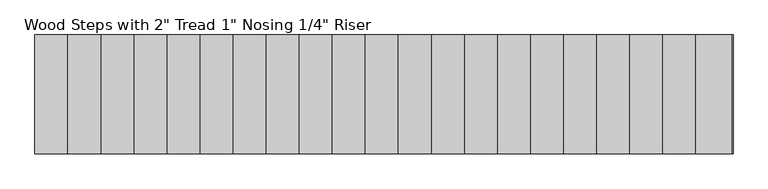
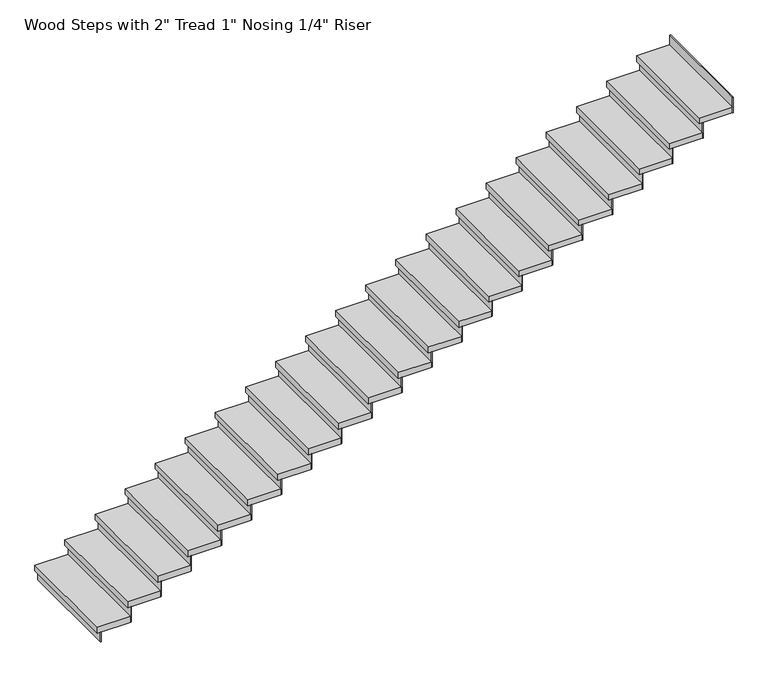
"""IFC4 building model written with IfcOpenShell, lengths in millimetres: stair flight geometry."""

import ifcopenshell
import ifcopenshell.guid

model = None  # the IFC model being written
_history = None  # IfcOwnerHistory: only IFC2X3 demands one
_inside = {}  # id of a spatial element -> (the spatial element, [elements in it])
_under = {}  # id of a project, library or spatial element -> (it, [spatial elements below it])
_declared = {}  # id of a project -> (the project, [libraries it declares])
_typed = {}  # id of a type object -> (the type object, [elements of that type])
_made_of = {}  # id of a material, layer set ... -> (it, [elements and type objects made of it])


def new_model(schema):
    """Start an empty IFC model of exactly this schema.

    Asked for "IFC4X3", IfcOpenShell would pick the latest addendum, in which some entities
    have other attributes; the version numbers below select the first issue.
    IFC2X3 requires an IfcOwnerHistory on every rooted entity: one is made here for all.
    """
    global model, _history
    if schema == "IFC4X3":
        model = ifcopenshell.file(schema_version=(4, 3, 0, 0))
    else:
        model = ifcopenshell.file(schema=schema)
    _inside.clear()
    _under.clear()
    _declared.clear()
    _typed.clear()
    _made_of.clear()
    _history = None
    if model.schema == "IFC2X3":
        org = make("IfcOrganization", Name="unknown")
        user = make(
            "IfcPersonAndOrganization",
            ThePerson=make("IfcPerson", FamilyName="unknown"),
            TheOrganization=org,
        )
        app = make(
            "IfcApplication",
            ApplicationDeveloper=org,
            Version="unknown",
            ApplicationFullName="unknown",
            ApplicationIdentifier="unknown",
        )
        _history = make(
            "IfcOwnerHistory",
            OwningUser=user,
            OwningApplication=app,
            ChangeAction="ADDED",
            CreationDate=0,
        )
    return model


def make(cls, **values):
    """One entity of the class cls with the attributes given. An attribute that is None is left unset."""
    return model.create_entity(
        cls, **{name: value for name, value in values.items() if value is not None}
    )


def rooted(cls, **values):
    """An entity with a GlobalId (a new one), such as an element, a storey or a relation."""
    return make(cls, GlobalId=ifcopenshell.guid.new(), OwnerHistory=_history, **values)


def si_unit(unit_type, name, prefix=None):
    """IfcSIUnit, for example si_unit("LENGTHUNIT", "METRE", prefix="MILLI")."""
    return make("IfcSIUnit", UnitType=unit_type, Prefix=prefix, Name=name)


def assignment(units):
    """IfcUnitAssignment: the units of a project."""
    return None if units is None else make("IfcUnitAssignment", Units=units)


def point(xyz):
    """IfcCartesianPoint."""
    return None if xyz is None else make("IfcCartesianPoint", Coordinates=xyz)


def direction(xyz):
    """IfcDirection."""
    return None if xyz is None else make("IfcDirection", DirectionRatios=xyz)


def frame(location, z_axis=None, x_axis=None):
    """IfcAxis2Placement3D, a coordinate frame: its origin and axes. An axis left out is left unset."""
    return make(
        "IfcAxis2Placement3D",
        Location=point(location),
        Axis=direction(z_axis),
        RefDirection=direction(x_axis),
    )


def origin():
    """The frame at (0, 0, 0) with its axes left unset."""
    return frame((0.0, 0.0, 0.0))


def origin_with_axes():
    """The frame at (0, 0, 0) with the z axis (0, 0, 1) and the x axis (1, 0, 0) written out."""
    return frame((0.0, 0.0, 0.0), z_axis=(0.0, 0.0, 1.0), x_axis=(1.0, 0.0, 0.0))


def place(relative_to, where):
    """IfcLocalPlacement: puts the frame where relative to a parent placement (None: the world)."""
    return make(
        "IfcLocalPlacement", PlacementRelTo=relative_to, RelativePlacement=where
    )


def context(
    kind, dimensions, precision=None, world=None, true_north=None, identifier=None
):
    """IfcGeometricRepresentationContext, for example the 3D "Model" context."""
    return make(
        "IfcGeometricRepresentationContext",
        ContextIdentifier=identifier,
        ContextType=kind,
        CoordinateSpaceDimension=dimensions,
        Precision=precision,
        WorldCoordinateSystem=world,
        TrueNorth=true_north,
    )


def project(units=None, contexts=None):
    """IfcProject with its units and contexts."""
    return rooted(
        "IfcProject",
        Name="project",
        RepresentationContexts=contexts,
        UnitsInContext=assignment(units),
    )


def spatial(cls, under=None, at=None, **own):
    """A site, building, storey or space (cls), placed at a placement, below another one or the project."""
    s = rooted(cls, ObjectPlacement=at, **own)
    if under is not None:
        _under.setdefault(under.id(), (under, []))[1].append(s)
    return s


def polyline(points):
    """IfcPolyline through the points."""
    return make("IfcPolyline", Points=[point(p) for p in points])


def outline(outer, holes=None, kind="AREA"):
    """IfcArbitraryClosedProfileDef: a profile drawn as a closed curve; with holes, ...WithVoids."""
    if holes is None:
        return make("IfcArbitraryClosedProfileDef", ProfileType=kind, OuterCurve=outer)
    return make(
        "IfcArbitraryProfileDefWithVoids",
        ProfileType=kind,
        OuterCurve=outer,
        InnerCurves=holes,
    )


def extrude(swept, where, along, depth):
    """IfcExtrudedAreaSolid: the profile swept, set in the frame where, extruded along a direction by depth."""
    return make(
        "IfcExtrudedAreaSolid",
        SweptArea=swept,
        Position=where,
        ExtrudedDirection=direction(along),
        Depth=depth,
    )


def shape(context_of_items, identifier, shape_type, items):
    """IfcShapeRepresentation: the items that make up one representation, for example the "Body"."""
    return make(
        "IfcShapeRepresentation",
        ContextOfItems=context_of_items,
        RepresentationIdentifier=identifier,
        RepresentationType=shape_type,
        Items=items,
    )


def source(mapping_origin, context_of_items, identifier, shape_type, items):
    """IfcRepresentationMap: a shape defined once, which mapped items show again and again."""
    return make(
        "IfcRepresentationMap",
        MappingOrigin=mapping_origin,
        MappedRepresentation=shape(context_of_items, identifier, shape_type, items),
    )


def transform(
    local_origin,
    x_axis=None,
    y_axis=None,
    z_axis=None,
    scale=None,
    scale2=None,
    scale3=None,
    uniform=True,
):
    """IfcCartesianTransformationOperator3D, or its non-uniform kind. x_axis, y_axis, z_axis: its Axis1, 2, 3."""
    if uniform:
        return make(
            "IfcCartesianTransformationOperator3D",
            Axis1=direction(x_axis),
            Axis2=direction(y_axis),
            LocalOrigin=point(local_origin),
            Scale=scale,
            Axis3=direction(z_axis),
        )
    return make(
        "IfcCartesianTransformationOperator3DnonUniform",
        Axis1=direction(x_axis),
        Axis2=direction(y_axis),
        LocalOrigin=point(local_origin),
        Scale=scale,
        Axis3=direction(z_axis),
        Scale2=scale2,
        Scale3=scale3,
    )


def mapped(mapping_source, mapping_target):
    """IfcMappedItem: shows the shape of a source again, moved by a transform."""
    return make(
        "IfcMappedItem", MappingSource=mapping_source, MappingTarget=mapping_target
    )


def made_of(thing, what):
    """Note that an element or type object is made of a material, layer set ...; save() writes the relation."""
    if what is not None:
        _made_of.setdefault(what.id(), (what, []))[1].append(thing)
    return thing


def element(
    cls,
    number,
    at=None,
    inside=None,
    cuts=None,
    type_object=None,
    material=None,
    context=None,
    identifier="Body",
    shape_type=None,
    held_by="IfcProductDefinitionShape",
    body=None,
    shapes=None,
    **own,
):
    """One element of the class cls, such as IfcWall. Its Tag is "e" and its number.

    at: its placement. inside: the storey or other place that contains it. cuts: it is an
    opening in that element (IfcRelVoidsElement). A single representation is given by context,
    identifier, shape_type and body (its items); several are given by shapes. held_by: the class
    of the entity that holds the representations. save() writes the other relations.
    """
    e = rooted(cls, Tag="e%d" % number, ObjectPlacement=at, **own)
    if body is not None:
        shapes = [shape(context, identifier, shape_type, body)]
    if shapes is not None:
        e.Representation = make(held_by, Representations=shapes)
    if inside is not None:
        _inside.setdefault(inside.id(), (inside, []))[1].append(e)
    if cuts is not None:
        rooted(
            "IfcRelVoidsElement", RelatingBuildingElement=cuts, RelatedOpeningElement=e
        )
    if type_object is not None:
        _typed.setdefault(type_object.id(), (type_object, []))[1].append(e)
    return made_of(e, material)


def aggregate(whole, parts):
    """IfcRelAggregates: a whole, such as a stair, and the parts it consists of."""
    return rooted("IfcRelAggregates", RelatingObject=whole, RelatedObjects=parts)


def save(model, path):
    """Write the relations noted so far, then the file.

    IfcRelAggregates (storeys below a building ...), IfcRelContainedInSpatialStructure (elements
    in a storey), IfcRelDefinesByType, IfcRelAssociatesMaterial and IfcRelDeclares: one each for
    every whole, place, type object, material and project.
    """
    for whole, parts in _under.values():
        aggregate(whole, parts)
    for where, things in _inside.values():
        rooted(
            "IfcRelContainedInSpatialStructure",
            RelatedElements=things,
            RelatingStructure=where,
        )
    for kind, things in _typed.values():
        rooted("IfcRelDefinesByType", RelatedObjects=things, RelatingType=kind)
    for what, things in _made_of.values():
        rooted("IfcRelAssociatesMaterial", RelatedObjects=things, RelatingMaterial=what)
    for by, libraries in _declared.values():
        rooted("IfcRelDeclares", RelatingContext=by, RelatedDefinitions=libraries)
    model.write(path)


def stair_flight_a9538401(model_context):
    return source(origin(), model_context, "Body", "SweptSolid", [
        extrude(outline(polyline([(-11415.6665976, 23363.0076385), (-11422.0165976, 23363.0076385), (-11422.0165976, 24277.4076385), (-11415.6665976, 24277.4076385), (-11415.6665976, 23363.0076385)])), origin_with_axes(), (0.0, 0.0, 1.0), 87.7454545),
        extrude(outline(polyline([(-11168.0165976, 24277.4076385), (-11168.0165976, 23363.0076385), (-11447.4165976, 23363.0076385), (-11447.4165976, 24277.4076385), (-11168.0165976, 24277.4076385)])), frame((0.0, 0.0, 87.7454545), z_axis=(0.0, 0.0, 1.0), x_axis=(1.0, 0.0, 0.0)), (0.0, 0.0, 1.0), 50.8),
        extrude(outline(polyline([(-11161.6665976, 23363.0076385), (-11168.0165976, 23363.0076385), (-11168.0165976, 24277.4076385), (-11161.6665976, 24277.4076385), (-11161.6665976, 23363.0076385)])), frame((0.0, 0.0, 87.7454545), z_axis=(0.0, 0.0, 1.0), x_axis=(1.0, 0.0, 0.0)), (0.0, 0.0, 1.0), 138.5454545),
        extrude(outline(polyline([(-10914.0165976, 24277.4076385), (-10914.0165976, 23363.0076385), (-11193.4165976, 23363.0076385), (-11193.4165976, 24277.4076385), (-10914.0165976, 24277.4076385)])), frame((0.0, 0.0, 226.2909091), z_axis=(0.0, 0.0, 1.0), x_axis=(1.0, 0.0, 0.0)), (0.0, 0.0, 1.0), 50.8),
        extrude(outline(polyline([(-10907.6665976, 23363.0076385), (-10914.0165976, 23363.0076385), (-10914.0165976, 24277.4076385), (-10907.6665976, 24277.4076385), (-10907.6665976, 23363.0076385)])), frame((0.0, 0.0, 226.2909091), z_axis=(0.0, 0.0, 1.0), x_axis=(1.0, 0.0, 0.0)), (0.0, 0.0, 1.0), 138.5454545),
        extrude(outline(polyline([(-10660.0165976, 24277.4076385), (-10660.0165976, 23363.0076385), (-10939.4165976, 23363.0076385), (-10939.4165976, 24277.4076385), (-10660.0165976, 24277.4076385)])), frame((0.0, 0.0, 364.8363636), z_axis=(0.0, 0.0, 1.0), x_axis=(1.0, 0.0, 0.0)), (0.0, 0.0, 1.0), 50.8),
        extrude(outline(polyline([(-10653.6665976, 23363.0076385), (-10660.0165976, 23363.0076385), (-10660.0165976, 24277.4076385), (-10653.6665976, 24277.4076385), (-10653.6665976, 23363.0076385)])), frame((0.0, 0.0, 364.8363636), z_axis=(0.0, 0.0, 1.0), x_axis=(1.0, 0.0, 0.0)), (0.0, 0.0, 1.0), 138.5454545),
        extrude(outline(polyline([(-10406.0165976, 24277.4076385), (-10406.0165976, 23363.0076385), (-10685.4165976, 23363.0076385), (-10685.4165976, 24277.4076385), (-10406.0165976, 24277.4076385)])), frame((0.0, 0.0, 503.3818182), z_axis=(0.0, 0.0, 1.0), x_axis=(1.0, 0.0, 0.0)), (0.0, 0.0, 1.0), 50.8),
        extrude(outline(polyline([(-10399.6665976, 23363.0076385), (-10406.0165976, 23363.0076385), (-10406.0165976, 24277.4076385), (-10399.6665976, 24277.4076385), (-10399.6665976, 23363.0076385)])), frame((0.0, 0.0, 503.3818182), z_axis=(0.0, 0.0, 1.0), x_axis=(1.0, 0.0, 0.0)), (0.0, 0.0, 1.0), 138.5454545),
        extrude(outline(polyline([(-10152.0165976, 24277.4076385), (-10152.0165976, 23363.0076385), (-10431.4165976, 23363.0076385), (-10431.4165976, 24277.4076385), (-10152.0165976, 24277.4076385)])), frame((0.0, 0.0, 641.9272727), z_axis=(0.0, 0.0, 1.0), x_axis=(1.0, 0.0, 0.0)), (0.0, 0.0, 1.0), 50.8),
        extrude(outline(polyline([(-10145.6665976, 23363.0076385), (-10152.0165976, 23363.0076385), (-10152.0165976, 24277.4076385), (-10145.6665976, 24277.4076385), (-10145.6665976, 23363.0076385)])), frame((0.0, 0.0, 641.9272727), z_axis=(0.0, 0.0, 1.0), x_axis=(1.0, 0.0, 0.0)), (0.0, 0.0, 1.0), 138.5454545),
        extrude(outline(polyline([(-9898.0165976, 24277.4076385), (-9898.0165976, 23363.0076385), (-10177.4165976, 23363.0076385), (-10177.4165976, 24277.4076385), (-9898.0165976, 24277.4076385)])), frame((0.0, 0.0, 780.4727273), z_axis=(0.0, 0.0, 1.0), x_axis=(1.0, 0.0, 0.0)), (0.0, 0.0, 1.0), 50.8),
        extrude(outline(polyline([(-9891.6665976, 23363.0076385), (-9898.0165976, 23363.0076385), (-9898.0165976, 24277.4076385), (-9891.6665976, 24277.4076385), (-9891.6665976, 23363.0076385)])), frame((0.0, 0.0, 780.4727273), z_axis=(0.0, 0.0, 1.0), x_axis=(1.0, 0.0, 0.0)), (0.0, 0.0, 1.0), 138.5454545),
        extrude(outline(polyline([(-9644.0165976, 24277.4076385), (-9644.0165976, 23363.0076385), (-9923.4165976, 23363.0076385), (-9923.4165976, 24277.4076385), (-9644.0165976, 24277.4076385)])), frame((0.0, 0.0, 919.0181818), z_axis=(0.0, 0.0, 1.0), x_axis=(1.0, 0.0, 0.0)), (0.0, 0.0, 1.0), 50.8),
        extrude(outline(polyline([(-9637.6665976, 23363.0076385), (-9644.0165976, 23363.0076385), (-9644.0165976, 24277.4076385), (-9637.6665976, 24277.4076385), (-9637.6665976, 23363.0076385)])), frame((0.0, 0.0, 919.0181818), z_axis=(0.0, 0.0, 1.0), x_axis=(1.0, 0.0, 0.0)), (0.0, 0.0, 1.0), 138.5454545),
        extrude(outline(polyline([(-9390.0165976, 24277.4076385), (-9390.0165976, 23363.0076385), (-9669.4165976, 23363.0076385), (-9669.4165976, 24277.4076385), (-9390.0165976, 24277.4076385)])), frame((0.0, 0.0, 1057.5636364), z_axis=(0.0, 0.0, 1.0), x_axis=(1.0, 0.0, 0.0)), (0.0, 0.0, 1.0), 50.8),
        extrude(outline(polyline([(-9383.6665976, 23363.0076385), (-9390.0165976, 23363.0076385), (-9390.0165976, 24277.4076385), (-9383.6665976, 24277.4076385), (-9383.6665976, 23363.0076385)])), frame((0.0, 0.0, 1057.5636364), z_axis=(0.0, 0.0, 1.0), x_axis=(1.0, 0.0, 0.0)), (0.0, 0.0, 1.0), 138.5454545),
        extrude(outline(polyline([(-9136.0165976, 24277.4076385), (-9136.0165976, 23363.0076385), (-9415.4165976, 23363.0076385), (-9415.4165976, 24277.4076385), (-9136.0165976, 24277.4076385)])), frame((0.0, 0.0, 1196.1090909), z_axis=(0.0, 0.0, 1.0), x_axis=(1.0, 0.0, 0.0)), (0.0, 0.0, 1.0), 50.8),
        extrude(outline(polyline([(-9129.6665976, 23363.0076385), (-9136.0165976, 23363.0076385), (-9136.0165976, 24277.4076385), (-9129.6665976, 24277.4076385), (-9129.6665976, 23363.0076385)])), frame((0.0, 0.0, 1196.1090909), z_axis=(0.0, 0.0, 1.0), x_axis=(1.0, 0.0, 0.0)), (0.0, 0.0, 1.0), 138.5454545),
        extrude(outline(polyline([(-8882.0165976, 24277.4076385), (-8882.0165976, 23363.0076385), (-9161.4165976, 23363.0076385), (-9161.4165976, 24277.4076385), (-8882.0165976, 24277.4076385)])), frame((0.0, 0.0, 1334.6545455), z_axis=(0.0, 0.0, 1.0), x_axis=(1.0, 0.0, 0.0)), (0.0, 0.0, 1.0), 50.8),
        extrude(outline(polyline([(-8875.6665976, 23363.0076385), (-8882.0165976, 23363.0076385), (-8882.0165976, 24277.4076385), (-8875.6665976, 24277.4076385), (-8875.6665976, 23363.0076385)])), frame((0.0, 0.0, 1334.6545455), z_axis=(0.0, 0.0, 1.0), x_axis=(1.0, 0.0, 0.0)), (0.0, 0.0, 1.0), 138.5454545),
        extrude(outline(polyline([(-8628.0165976, 24277.4076385), (-8628.0165976, 23363.0076385), (-8907.4165976, 23363.0076385), (-8907.4165976, 24277.4076385), (-8628.0165976, 24277.4076385)])), frame((0.0, 0.0, 1473.2), z_axis=(0.0, 0.0, 1.0), x_axis=(1.0, 0.0, 0.0)), (0.0, 0.0, 1.0), 50.8),
        extrude(outline(polyline([(-8621.6665976, 23363.0076385), (-8628.0165976, 23363.0076385), (-8628.0165976, 24277.4076385), (-8621.6665976, 24277.4076385), (-8621.6665976, 23363.0076385)])), frame((0.0, 0.0, 1473.2), z_axis=(0.0, 0.0, 1.0), x_axis=(1.0, 0.0, 0.0)), (0.0, 0.0, 1.0), 138.5454545),
        extrude(outline(polyline([(-8374.0165976, 24277.4076385), (-8374.0165976, 23363.0076385), (-8653.4165976, 23363.0076385), (-8653.4165976, 24277.4076385), (-8374.0165976, 24277.4076385)])), frame((0.0, 0.0, 1611.7454545), z_axis=(0.0, 0.0, 1.0), x_axis=(1.0, 0.0, 0.0)), (0.0, 0.0, 1.0), 50.8),
        extrude(outline(polyline([(-8367.6665976, 23363.0076385), (-8374.0165976, 23363.0076385), (-8374.0165976, 24277.4076385), (-8367.6665976, 24277.4076385), (-8367.6665976, 23363.0076385)])), frame((0.0, 0.0, 1611.7454545), z_axis=(0.0, 0.0, 1.0), x_axis=(1.0, 0.0, 0.0)), (0.0, 0.0, 1.0), 138.5454545),
        extrude(outline(polyline([(-8120.0165976, 24277.4076385), (-8120.0165976, 23363.0076385), (-8399.4165976, 23363.0076385), (-8399.4165976, 24277.4076385), (-8120.0165976, 24277.4076385)])), frame((0.0, 0.0, 1750.2909091), z_axis=(0.0, 0.0, 1.0), x_axis=(1.0, 0.0, 0.0)), (0.0, 0.0, 1.0), 50.8),
        extrude(outline(polyline([(-8113.6665976, 23363.0076385), (-8120.0165976, 23363.0076385), (-8120.0165976, 24277.4076385), (-8113.6665976, 24277.4076385), (-8113.6665976, 23363.0076385)])), frame((0.0, 0.0, 1750.2909091), z_axis=(0.0, 0.0, 1.0), x_axis=(1.0, 0.0, 0.0)), (0.0, 0.0, 1.0), 138.5454545),
        extrude(outline(polyline([(-7866.0165976, 24277.4076385), (-7866.0165976, 23363.0076385), (-8145.4165976, 23363.0076385), (-8145.4165976, 24277.4076385), (-7866.0165976, 24277.4076385)])), frame((0.0, 0.0, 1888.8363636), z_axis=(0.0, 0.0, 1.0), x_axis=(1.0, 0.0, 0.0)), (0.0, 0.0, 1.0), 50.8),
        extrude(outline(polyline([(-7859.6665976, 23363.0076385), (-7866.0165976, 23363.0076385), (-7866.0165976, 24277.4076385), (-7859.6665976, 24277.4076385), (-7859.6665976, 23363.0076385)])), frame((0.0, 0.0, 1888.8363636), z_axis=(0.0, 0.0, 1.0), x_axis=(1.0, 0.0, 0.0)), (0.0, 0.0, 1.0), 138.5454545),
        extrude(outline(polyline([(-7612.0165976, 24277.4076385), (-7612.0165976, 23363.0076385), (-7891.4165976, 23363.0076385), (-7891.4165976, 24277.4076385), (-7612.0165976, 24277.4076385)])), frame((0.0, 0.0, 2027.3818182), z_axis=(0.0, 0.0, 1.0), x_axis=(1.0, 0.0, 0.0)), (0.0, 0.0, 1.0), 50.8),
        extrude(outline(polyline([(-7605.6665976, 23363.0076385), (-7612.0165976, 23363.0076385), (-7612.0165976, 24277.4076385), (-7605.6665976, 24277.4076385), (-7605.6665976, 23363.0076385)])), frame((0.0, 0.0, 2027.3818182), z_axis=(0.0, 0.0, 1.0), x_axis=(1.0, 0.0, 0.0)), (0.0, 0.0, 1.0), 138.5454545),
        extrude(outline(polyline([(-7358.0165976, 24277.4076385), (-7358.0165976, 23363.0076385), (-7637.4165976, 23363.0076385), (-7637.4165976, 24277.4076385), (-7358.0165976, 24277.4076385)])), frame((0.0, 0.0, 2165.9272727), z_axis=(0.0, 0.0, 1.0), x_axis=(1.0, 0.0, 0.0)), (0.0, 0.0, 1.0), 50.8),
        extrude(outline(polyline([(-7351.6665976, 23363.0076385), (-7358.0165976, 23363.0076385), (-7358.0165976, 24277.4076385), (-7351.6665976, 24277.4076385), (-7351.6665976, 23363.0076385)])), frame((0.0, 0.0, 2165.9272727), z_axis=(0.0, 0.0, 1.0), x_axis=(1.0, 0.0, 0.0)), (0.0, 0.0, 1.0), 138.5454545),
        extrude(outline(polyline([(-7104.0165976, 24277.4076385), (-7104.0165976, 23363.0076385), (-7383.4165976, 23363.0076385), (-7383.4165976, 24277.4076385), (-7104.0165976, 24277.4076385)])), frame((0.0, 0.0, 2304.4727273), z_axis=(0.0, 0.0, 1.0), x_axis=(1.0, 0.0, 0.0)), (0.0, 0.0, 1.0), 50.8),
        extrude(outline(polyline([(-7097.6665976, 23363.0076385), (-7104.0165976, 23363.0076385), (-7104.0165976, 24277.4076385), (-7097.6665976, 24277.4076385), (-7097.6665976, 23363.0076385)])), frame((0.0, 0.0, 2304.4727273), z_axis=(0.0, 0.0, 1.0), x_axis=(1.0, 0.0, 0.0)), (0.0, 0.0, 1.0), 138.5454545),
        extrude(outline(polyline([(-6850.0165976, 24277.4076385), (-6850.0165976, 23363.0076385), (-7129.4165976, 23363.0076385), (-7129.4165976, 24277.4076385), (-6850.0165976, 24277.4076385)])), frame((0.0, 0.0, 2443.0181818), z_axis=(0.0, 0.0, 1.0), x_axis=(1.0, 0.0, 0.0)), (0.0, 0.0, 1.0), 50.8),
        extrude(outline(polyline([(-6843.6665976, 23363.0076385), (-6850.0165976, 23363.0076385), (-6850.0165976, 24277.4076385), (-6843.6665976, 24277.4076385), (-6843.6665976, 23363.0076385)])), frame((0.0, 0.0, 2443.0181818), z_axis=(0.0, 0.0, 1.0), x_axis=(1.0, 0.0, 0.0)), (0.0, 0.0, 1.0), 138.5454545),
        extrude(outline(polyline([(-6596.0165976, 24277.4076385), (-6596.0165976, 23363.0076385), (-6875.4165976, 23363.0076385), (-6875.4165976, 24277.4076385), (-6596.0165976, 24277.4076385)])), frame((0.0, 0.0, 2581.5636364), z_axis=(0.0, 0.0, 1.0), x_axis=(1.0, 0.0, 0.0)), (0.0, 0.0, 1.0), 50.8),
        extrude(outline(polyline([(-6589.6665976, 23363.0076385), (-6596.0165976, 23363.0076385), (-6596.0165976, 24277.4076385), (-6589.6665976, 24277.4076385), (-6589.6665976, 23363.0076385)])), frame((0.0, 0.0, 2581.5636364), z_axis=(0.0, 0.0, 1.0), x_axis=(1.0, 0.0, 0.0)), (0.0, 0.0, 1.0), 138.5454545),
        extrude(outline(polyline([(-6342.0165976, 24277.4076385), (-6342.0165976, 23363.0076385), (-6621.4165976, 23363.0076385), (-6621.4165976, 24277.4076385), (-6342.0165976, 24277.4076385)])), frame((0.0, 0.0, 2720.1090909), z_axis=(0.0, 0.0, 1.0), x_axis=(1.0, 0.0, 0.0)), (0.0, 0.0, 1.0), 50.8),
        extrude(outline(polyline([(-6335.6665976, 23363.0076385), (-6342.0165976, 23363.0076385), (-6342.0165976, 24277.4076385), (-6335.6665976, 24277.4076385), (-6335.6665976, 23363.0076385)])), frame((0.0, 0.0, 2720.1090909), z_axis=(0.0, 0.0, 1.0), x_axis=(1.0, 0.0, 0.0)), (0.0, 0.0, 1.0), 138.5454545),
        extrude(outline(polyline([(-6081.6665976, 23363.0076385), (-6088.0165976, 23363.0076385), (-6088.0165976, 24277.4076385), (-6081.6665976, 24277.4076385), (-6081.6665976, 23363.0076385)])), frame((0.0, 0.0, 2858.6545455), z_axis=(0.0, 0.0, 1.0), x_axis=(1.0, 0.0, 0.0)), (0.0, 0.0, 1.0), 138.5454545),
        extrude(outline(polyline([(-6088.0165976, 24277.4076385), (-6088.0165976, 23363.0076385), (-6367.4165976, 23363.0076385), (-6367.4165976, 24277.4076385), (-6088.0165976, 24277.4076385)])), frame((0.0, 0.0, 2858.6545455), z_axis=(0.0, 0.0, 1.0), x_axis=(1.0, 0.0, 0.0)), (0.0, 0.0, 1.0), 50.8),
    ])


if __name__ == "__main__":
    model = new_model("IFC4")
    model_context = context("Model", 3, world=origin())
    ifc_project = project(units=[si_unit("LENGTHUNIT", "METRE", prefix="MILLI")], contexts=[model_context])
    site = spatial("IfcSite", under=ifc_project)
    building = spatial("IfcBuilding", under=site)
    placement = place(None, origin())
    stair_flight_shape = stair_flight_a9538401(model_context)
    element("IfcStairFlight", 1, ObjectType="Wood Steps with 2\" Tread 1\" Nosing 1/4\" Riser", at=placement, inside=building, context=model_context, shape_type="MappedRepresentation", body=[
        mapped(stair_flight_shape, transform((0.0, 0.0, 0.0), x_axis=(1.0, 0.0, 0.0), y_axis=(0.0, 1.0, 0.0), z_axis=(0.0, 0.0, 1.0))),
    ])
    save(model, "model.ifc")
